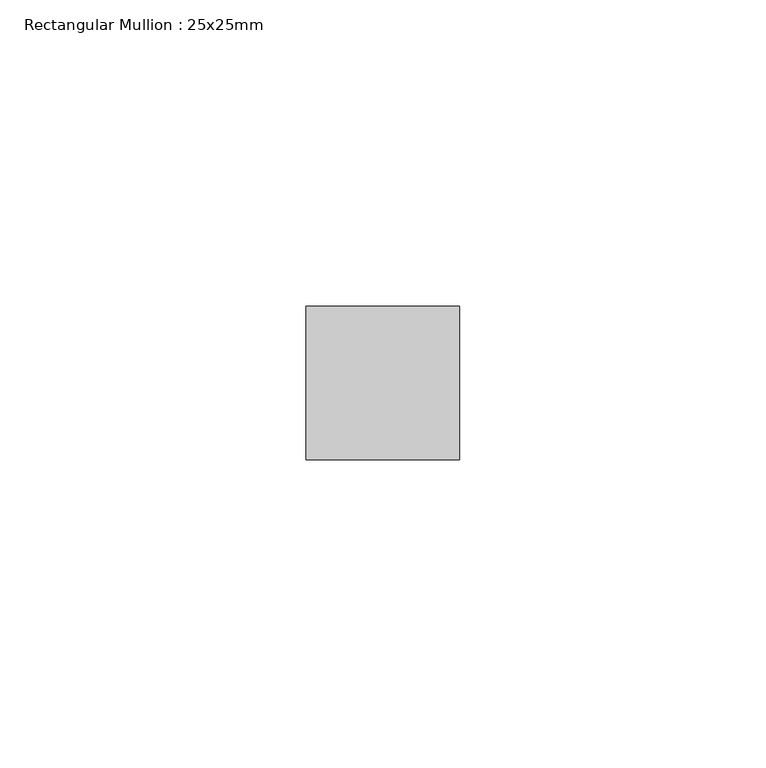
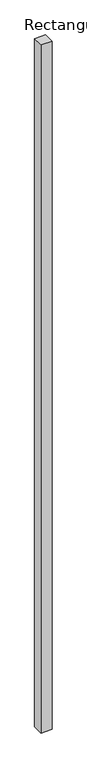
"""IFC4 building model written with IfcOpenShell, lengths in millimetres: member geometry, Rectangular Mullion : 25x25mm."""

from ifc_helpers import new_model, si_unit, frame, origin, place, context, project, spatial, polyline, outline, extrude, source, transform, mapped, element, save


def rectangular_mullion_25x25mm_88effc69(model_context):
    return source(origin(), model_context, "Body", "SweptSolid", [
        extrude(outline(polyline([(0.0, 24.5), (0.0, -0.5), (-25.0, -0.5), (-25.0, 24.5), (0.0, 24.5)])), frame((0.0, 0.0, -1670.0), z_axis=(0.0, 0.0, 1.0), x_axis=(1.0, 0.0, 0.0)), (0.0, 0.0, 1.0), 1670.0),
    ])


if __name__ == "__main__":
    model = new_model("IFC4")
    model_context = context("Model", 3, world=origin())
    ifc_project = project(units=[si_unit("LENGTHUNIT", "METRE", prefix="MILLI")], contexts=[model_context])
    site = spatial("IfcSite", under=ifc_project)
    building = spatial("IfcBuilding", under=site)
    placement = place(None, origin())
    rectangular_mullion_25x25mm_shape = rectangular_mullion_25x25mm_88effc69(model_context)
    element("IfcMember", 1, ObjectType="Rectangular Mullion : 25x25mm", at=placement, inside=building, context=model_context, shape_type="MappedRepresentation", body=[
        mapped(rectangular_mullion_25x25mm_shape, transform((0.0, 0.0, 0.0), x_axis=(1.0, 0.0, 0.0), y_axis=(0.0, 1.0, 0.0), z_axis=(0.0, 0.0, 1.0))),
    ])
    save(model, "model.ifc")
